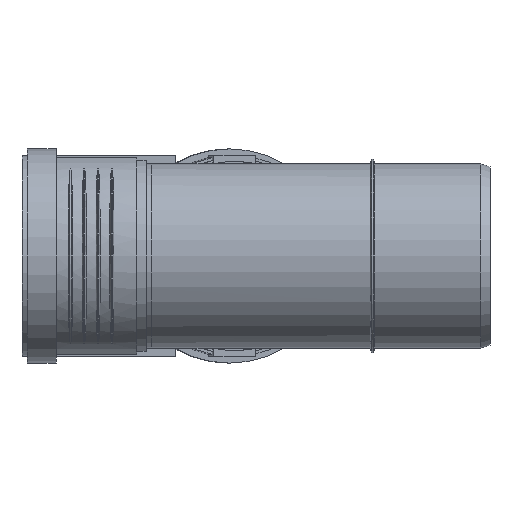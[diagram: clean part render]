
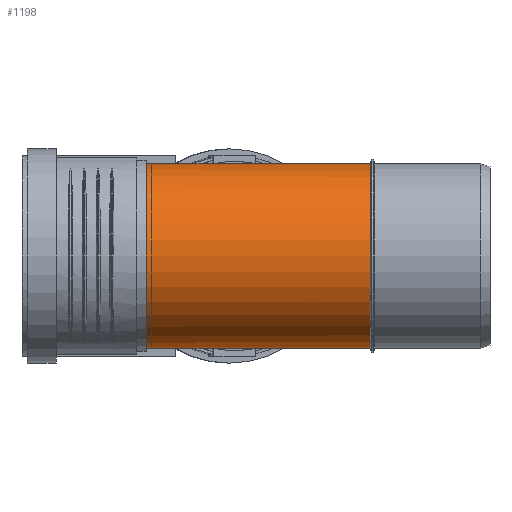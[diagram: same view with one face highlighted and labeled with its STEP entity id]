
A CAD part, left-side view. The second image highlights one B-rep face of the part: STEP entity #1198.
In plain terms, the highlighted cylindrical face has radius 55.1 mm (diameter 110.2 mm), a full revolution.
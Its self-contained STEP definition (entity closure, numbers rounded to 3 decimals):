
#141=FACE_BOUND($,#288,.T.);
#182=CYLINDRICAL_SURFACE($,#1292,55.1);
#211=FACE_OUTER_BOUND($,#287,.T.);
#287=EDGE_LOOP($,(#811,#812));
#288=EDGE_LOOP($,(#813));
#391=CIRCLE($,#1293,55.1);
#392=CIRCLE($,#1294,55.1);
#449=B_SPLINE_CURVE_WITH_KNOTS($,3,(#2011,#2012,#2013,#2014,#2015,#2016,
#2017,#2018,#2019,#2020,#2021,#2022,#2023,#2024,#2025,#2026,#2027,#2028,
#2029,#2030,#2031,#2032,#2033,#2034,#2035,#2036,#2037,#2038,#2039,#2040,
#2041,#2042,#2043,#2044,#2045,#2046,#2047,#2048,#2049,#2050,#2051,#2052,
#2053,#2054),.UNSPECIFIED.,.F.,.F.,(4,2,2,2,2,2,2,2,2,2,2,2,2,2,2,2,2,2,
2,2,2,4),(0.,1.202,2.458,3.4,4.559,
6.655,10.232,13.771,16.647,18.787,
20.115,21.302,22.828,25.256,27.754,
31.699,35.476,37.517,38.799,40.055,
41.233,42.481),.UNSPECIFIED.);
#509=VERTEX_POINT($,#1987);
#510=VERTEX_POINT($,#1988);
#515=VERTEX_POINT($,#2068);
#632=EDGE_CURVE($,#510,#509,#449,.T.);
#637=EDGE_CURVE($,#509,#510,#391,.T.);
#638=EDGE_CURVE($,#515,#515,#392,.T.);
#811=ORIENTED_EDGE($,*,*,#632,.T.);
#812=ORIENTED_EDGE($,*,*,#637,.T.);
#813=ORIENTED_EDGE($,*,*,#638,.F.);
#1198=ADVANCED_FACE($,(#211,#141),#182,.T.);
#1292=AXIS2_PLACEMENT_3D($,#2066,#1464,#1465);
#1293=AXIS2_PLACEMENT_3D($,#2067,#1466,#1467);
#1294=AXIS2_PLACEMENT_3D($,#2069,#1468,#1469);
#1464=DIRECTION('center_axis',(0.,1.,0.));
#1465=DIRECTION('ref_axis',(-1.,0.,0.));
#1466=DIRECTION('center_axis',(0.,1.,0.));
#1467=DIRECTION('ref_axis',(-1.,0.,0.));
#1468=DIRECTION('center_axis',(0.,1.,0.));
#1469=DIRECTION('ref_axis',(-1.,0.,0.));
#1987=CARTESIAN_POINT('',(34.721,71.6,-42.784));
#1988=CARTESIAN_POINT('',(34.721,71.6,42.784));
#2011=CARTESIAN_POINT('Ctrl Pts',(34.721,71.6,42.784));
#2012=CARTESIAN_POINT('Ctrl Pts',(31.767,72.854,45.181));
#2013=CARTESIAN_POINT('Ctrl Pts',(28.835,74.32,47.052));
#2014=CARTESIAN_POINT('Ctrl Pts',(23.337,77.963,50.016));
#2015=CARTESIAN_POINT('Ctrl Pts',(20.698,80.231,51.115));
#2016=CARTESIAN_POINT('Ctrl Pts',(16.952,85.337,52.455));
#2017=CARTESIAN_POINT('Ctrl Pts',(15.741,87.74,52.811));
#2018=CARTESIAN_POINT('Ctrl Pts',(13.818,93.595,53.351));
#2019=CARTESIAN_POINT('Ctrl Pts',(13.329,97.032,53.464));
#2020=CARTESIAN_POINT('Ctrl Pts',(12.948,106.582,53.558));
#2021=CARTESIAN_POINT('Ctrl Pts',(13.835,113.182,53.351));
#2022=CARTESIAN_POINT('Ctrl Pts',(17.236,129.435,52.382));
#2023=CARTESIAN_POINT('Ctrl Pts',(20.995,140.51,51.201));
#2024=CARTESIAN_POINT('Ctrl Pts',(30.042,161.737,46.468));
#2025=CARTESIAN_POINT('Ctrl Pts',(35.016,171.274,43.063));
#2026=CARTESIAN_POINT('Ctrl Pts',(43.414,185.979,34.361));
#2027=CARTESIAN_POINT('Ctrl Pts',(46.697,191.202,29.795));
#2028=CARTESIAN_POINT('Ctrl Pts',(51.144,198.079,20.933));
#2029=CARTESIAN_POINT('Ctrl Pts',(52.757,200.478,16.633));
#2030=CARTESIAN_POINT('Ctrl Pts',(54.463,202.99,8.888));
#2031=CARTESIAN_POINT('Ctrl Pts',(54.886,203.604,5.8));
#2032=CARTESIAN_POINT('Ctrl Pts',(55.173,204.021,-0.209));
#2033=CARTESIAN_POINT('Ctrl Pts',(55.088,203.899,-3.043));
#2034=CARTESIAN_POINT('Ctrl Pts',(54.406,202.905,-9.435));
#2035=CARTESIAN_POINT('Ctrl Pts',(53.683,201.849,-12.861));
#2036=CARTESIAN_POINT('Ctrl Pts',(51.144,198.067,-21.187));
#2037=CARTESIAN_POINT('Ctrl Pts',(48.848,194.608,-26.032));
#2038=CARTESIAN_POINT('Ctrl Pts',(42.941,185.109,-34.95));
#2039=CARTESIAN_POINT('Ctrl Pts',(39.63,179.503,-38.519));
#2040=CARTESIAN_POINT('Ctrl Pts',(31.364,164.271,-45.802));
#2041=CARTESIAN_POINT('Ctrl Pts',(26.368,153.842,-48.585));
#2042=CARTESIAN_POINT('Ctrl Pts',(18.407,132.909,-52.109));
#2043=CARTESIAN_POINT('Ctrl Pts',(15.384,122.481,-52.928));
#2044=CARTESIAN_POINT('Ctrl Pts',(13.24,107.973,-53.491));
#2045=CARTESIAN_POINT('Ctrl Pts',(12.861,102.471,-53.581));
#2046=CARTESIAN_POINT('Ctrl Pts',(13.771,94.102,-53.353));
#2047=CARTESIAN_POINT('Ctrl Pts',(14.502,90.919,-53.174));
#2048=CARTESIAN_POINT('Ctrl Pts',(17.064,85.052,-52.408));
#2049=CARTESIAN_POINT('Ctrl Pts',(18.786,82.551,-51.85));
#2050=CARTESIAN_POINT('Ctrl Pts',(22.932,78.312,-50.148));
#2051=CARTESIAN_POINT('Ctrl Pts',(25.181,76.654,-49.081));
#2052=CARTESIAN_POINT('Ctrl Pts',(29.904,73.779,-46.364));
#2053=CARTESIAN_POINT('Ctrl Pts',(32.367,72.599,-44.695));
#2054=CARTESIAN_POINT('Ctrl Pts',(34.721,71.6,-42.784));
#2066=CARTESIAN_POINT('Origin',(0.,141.69,0.));
#2067=CARTESIAN_POINT('Origin',(0.,71.6,0.));
#2068=CARTESIAN_POINT('',(-55.1,211.78,0.));
#2069=CARTESIAN_POINT('Origin',(0.,211.78,0.));
